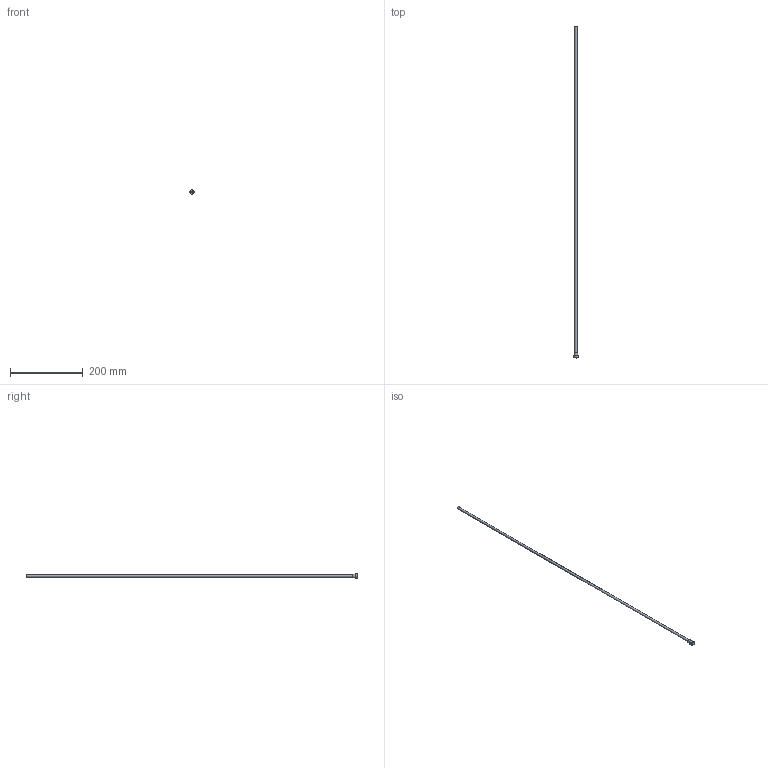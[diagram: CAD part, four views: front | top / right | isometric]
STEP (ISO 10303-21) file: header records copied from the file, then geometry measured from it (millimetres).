
FILE_DESCRIPTION(/* description */ (''),/* implementation_level */ '2;1');
FILE_NAME(/* name */ 'C:/Users/drich/Desktop/JR250T-36 v1.step',/* time_stamp */ '2019-12-30T13:05:58-06:00',/* author */ (''),/* organization */ (''),/* preprocessor_version */ 'ST-DEVELOPER v18',/* originating_system */ 'Autodesk Translation Framework v8.12.0.6',/* authorisation */ '');
FILE_SCHEMA (('AUTOMOTIVE_DESIGN { 1 0 10303 214 3 1 1 }'));
Length unit declared in the file: inch
Products named in the file (1): JR250T-36
Bounding box: 12.57 x 914.4 x 12.57 mm (x, y, z)
Volume: 5338.1 mm3; surface area: 35479.2 mm2
Topology: 1 solids, 1 shells, 19 faces, 47 edges, 33 vertices
Faces by surface type: plane 11, cylinder 4, torus 3, cone 1
Full cylindrical faces by diameter (mm): 5.842 x1, 6.35 x1, 9.406 x1, 12.573 x1
Entity records: 624 total; most frequent: DIRECTION 111, CARTESIAN_POINT 100, ORIENTED_EDGE 94, EDGE_CURVE 47, AXIS2_PLACEMENT_3D 44, VERTEX_POINT 33, EDGE_LOOP 24, CIRCLE 24
